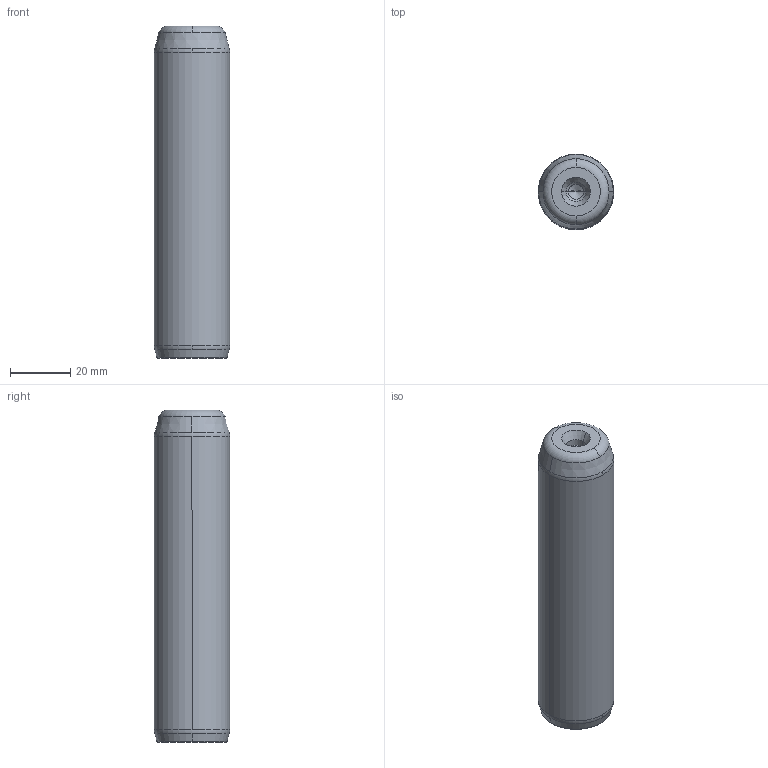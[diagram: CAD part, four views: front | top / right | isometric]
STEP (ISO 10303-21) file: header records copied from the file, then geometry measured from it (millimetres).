
FILE_DESCRIPTION((''),'2;1');
FILE_NAME('P10_025_110.stp','2008-12-23T14:48:49',(''),(''),'Mechanical Desktop 2009','Mechanical Desktop 2009',', , ');
FILE_SCHEMA(('CONFIG_CONTROL_DESIGN'));
Length unit declared in the file: millimetre
Products named in the file (5): Product; ProductAA; blmdl1; ProductA; blmdl1A
Assembly tree (2 placements, depth 3):
  Product
    ProductAA
      blmdl1
  ProductA
  blmdl1A
Bounding box: 25 x 25 x 110 mm (x, y, z)
Volume: 52627.4 mm3; surface area: 9642.4 mm2
Topology: 1 solids, 1 shells, 26 faces, 66 edges, 41 vertices
Faces by surface type: cone 10, torus 8, cylinder 6, plane 2
Entity records: 1012 total; most frequent: DIRECTION 170, CARTESIAN_POINT 134, ORIENTED_EDGE 128, AXIS2_PLACEMENT_3D 77, EDGE_CURVE 64, CIRCLE 48, VERTEX_POINT 41, EDGE_LOOP 27
